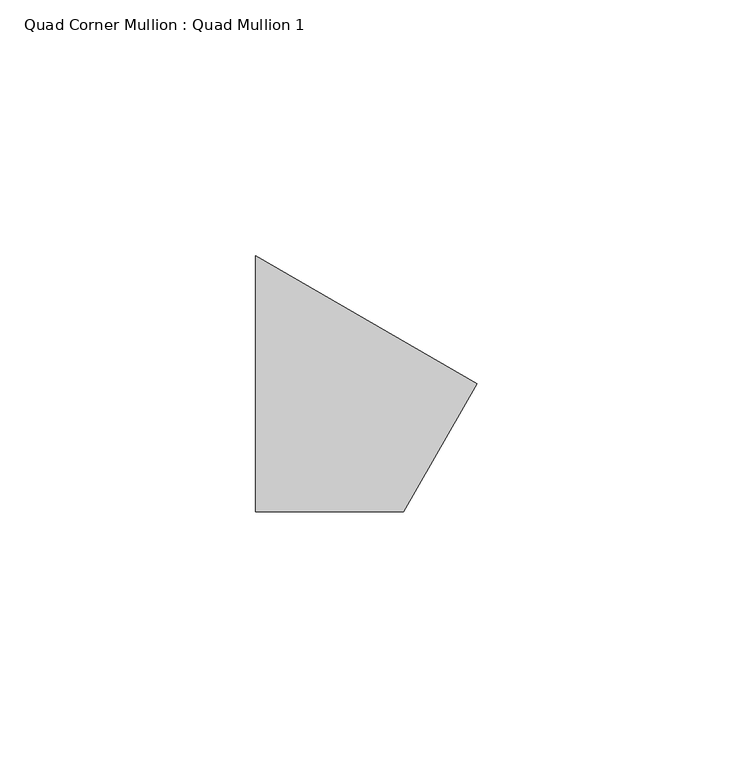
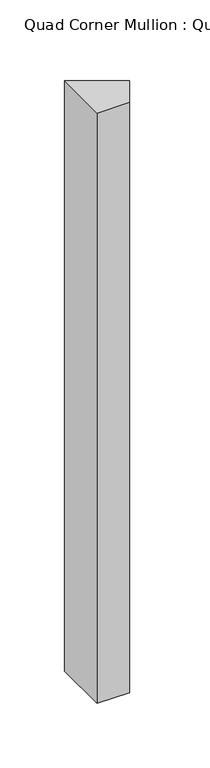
"""IFC4 building model written with IfcOpenShell, lengths in millimetres: member geometry, Quad Corner Mullion : Quad Mullion 1."""

from ifc_helpers import new_model, si_unit, frame, origin, place, context, project, spatial, polyline, outline, extrude, source, transform, mapped, element, save


def quad_corner_mullion_quad_mullion_1_50a254de(model_context):
    return source(origin(), model_context, "Body", "SweptSolid", [
        extrude(outline(polyline([(28.8675135, 0.0), (14.4337567, -25.0), (-14.4337567, -25.0), (-14.4337567, 25.0), (28.8675135, 0.0)])), frame((0.0, 0.0, -556.284353), z_axis=(0.0, 0.0, 1.0), x_axis=(1.0, 0.0, 0.0)), (0.0, 0.0, 1.0), 556.284353),
    ])


if __name__ == "__main__":
    model = new_model("IFC4")
    model_context = context("Model", 3, world=origin())
    ifc_project = project(units=[si_unit("LENGTHUNIT", "METRE", prefix="MILLI")], contexts=[model_context])
    site = spatial("IfcSite", under=ifc_project)
    building = spatial("IfcBuilding", under=site)
    placement = place(None, origin())
    quad_corner_mullion_quad_mullion_1_shape = quad_corner_mullion_quad_mullion_1_50a254de(model_context)
    element("IfcMember", 1, ObjectType="Quad Corner Mullion : Quad Mullion 1", at=placement, inside=building, context=model_context, shape_type="MappedRepresentation", body=[
        mapped(quad_corner_mullion_quad_mullion_1_shape, transform((0.0, 0.0, 0.0), x_axis=(1.0, 0.0, 0.0), y_axis=(0.0, 1.0, 0.0), z_axis=(0.0, 0.0, 1.0))),
    ])
    save(model, "model.ifc")
